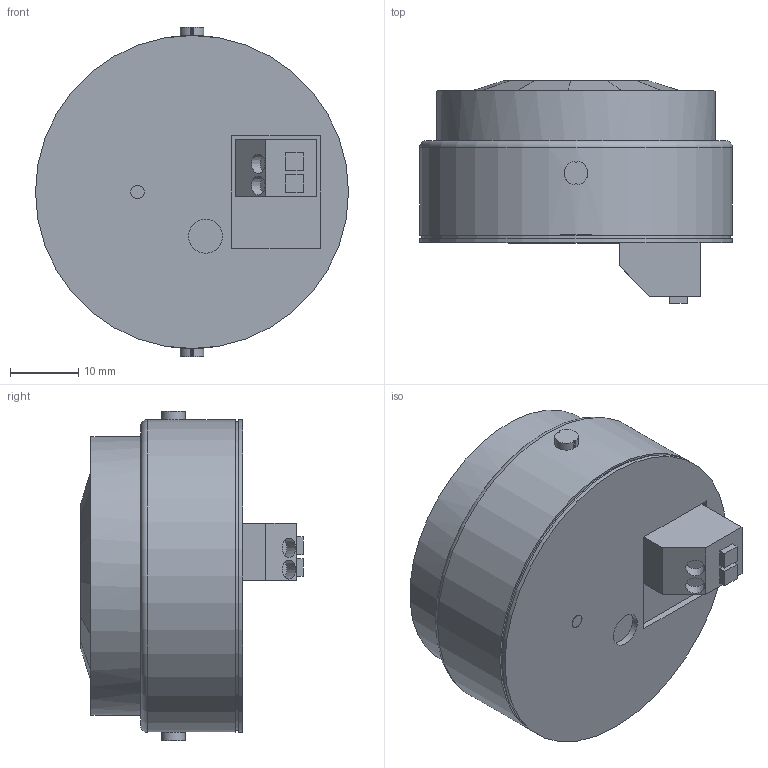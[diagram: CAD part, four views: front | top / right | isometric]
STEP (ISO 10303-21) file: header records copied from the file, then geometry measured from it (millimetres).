
FILE_DESCRIPTION(/* description */ (''),/* implementation_level */ '2;1');
FILE_NAME(/* name */ 'D:\Inventor\Tridonic\Datamec_Dateien\20190325_MSensor\15013194_00a.stp',/* time_stamp */ '2019-04-14T21:47:31+02:00',/* author */ ('Arbeitsplatz 15'),/* organization */ (''),/* preprocessor_version */ 'ST-DEVELOPER v16.5',/* originating_system */ 'Autodesk Inventor 2017',/* authorisation */ '');
FILE_SCHEMA (('AUTOMOTIVE_DESIGN { 1 0 10303 214 3 1 1 }'));
Length unit declared in the file: millimetre
Products named in the file (1): 15013194_00
Bounding box: 46 x 32.7 x 48.4 mm (x, y, z)
Volume: 34127.4 mm3; surface area: 9806.6 mm2
Topology: 2 solids, 3 shells, 116 faces, 293 edges, 196 vertices
Faces by surface type: plane 93, cylinder 19, cone 3, torus 1
Full cylindrical faces by diameter (mm): 2 x1, 5 x1, 39 x1, 41 x1, 45.4 x1, 46 x2
Entity records: 3576 total; most frequent: CARTESIAN_POINT 674, DIRECTION 555, ORIENTED_EDGE 548, EDGE_CURVE 274, LINE 203, VECTOR 203, VERTEX_POINT 189, AXIS2_PLACEMENT_3D 176
